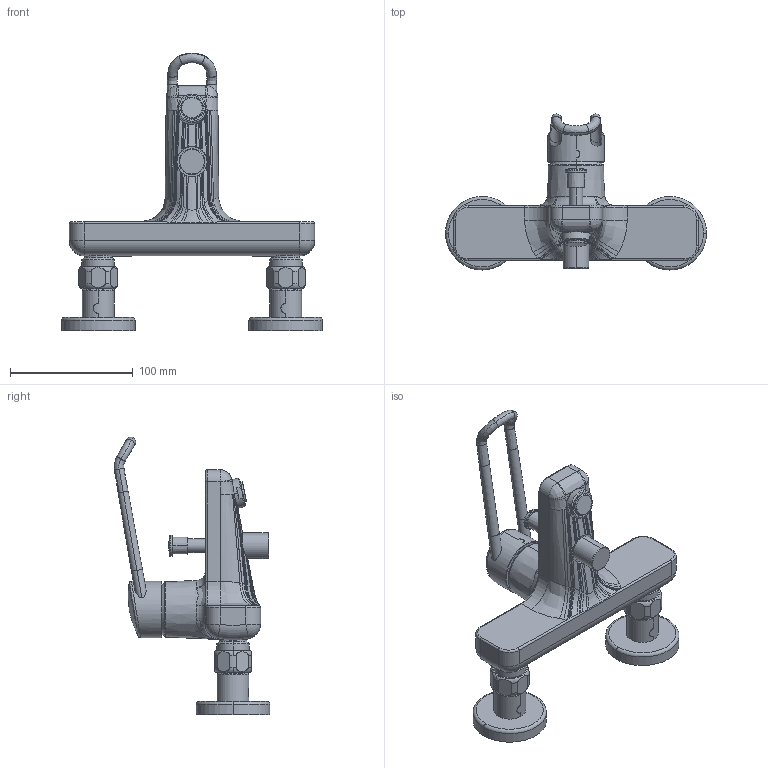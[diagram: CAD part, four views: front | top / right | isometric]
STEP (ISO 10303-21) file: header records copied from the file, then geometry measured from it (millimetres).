
FILE_DESCRIPTION((''),'2;1');
FILE_NAME('20522313','2020-08-05T16:30:31',('SN986'),(''),'CREO PARAMETRIC BY PTC INC, 2018500','CREO PARAMETRIC BY PTC INC, 2018500','');
FILE_SCHEMA(('CONFIG_CONTROL_DESIGN'));
Length unit declared in the file: millimetre
Products named in the file (1): 20522313
Bounding box: 213 x 126.94 x 226.78 mm (x, y, z)
Volume: 621707.9 mm3; surface area: 84787.9 mm2
Topology: 3 solids, 3 shells, 353 faces, 863 edges, 525 vertices
Faces by surface type: bspline 116, cylinder 80, torus 69, plane 63, cone 16, sphere 9
Entity records: 20725 total; most frequent: CARTESIAN_POINT 13240, ORIENTED_EDGE 1714, DIRECTION 1317, EDGE_CURVE 857, AXIS2_PLACEMENT_3D 563, VERTEX_POINT 525, EDGE_LOOP 370, FACE_OUTER_BOUND 353
